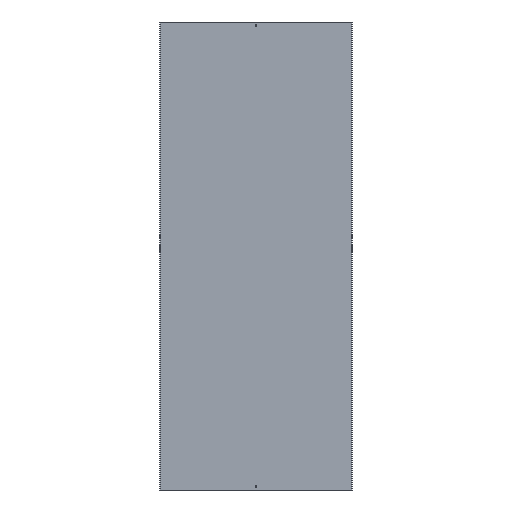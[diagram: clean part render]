
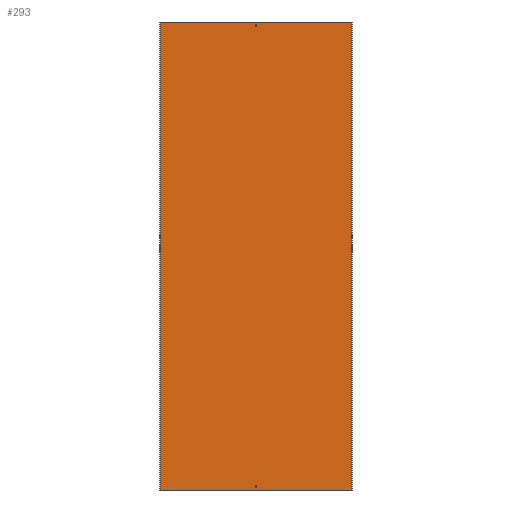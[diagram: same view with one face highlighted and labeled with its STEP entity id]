
A CAD part, front view. The second image highlights one B-rep face of the part: STEP entity #293.
In plain terms, the highlighted planar face has unit normal (0, -1, 0).
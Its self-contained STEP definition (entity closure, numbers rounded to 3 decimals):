
#7 = LINE ( 'NONE', #319, #367 ) ;
#15 = EDGE_CURVE ( 'NONE', #289, #318, #156, .T. ) ;
#17 = VERTEX_POINT ( 'NONE', #251 ) ;
#21 = FACE_BOUND ( 'NONE', #448, .T. ) ;
#23 = CARTESIAN_POINT ( 'NONE',  ( -410., -1.5, 1000. ) ) ;
#26 = DIRECTION ( 'NONE',  ( -1., 0., 0. ) ) ;
#28 = DIRECTION ( 'NONE',  ( 0., -1., 0. ) ) ;
#29 = VECTOR ( 'NONE', #455, 1000. ) ;
#31 = CARTESIAN_POINT ( 'NONE',  ( -3.25, -1.5, 1000. ) ) ;
#32 = CARTESIAN_POINT ( 'NONE',  ( -410., -1.5, -1000. ) ) ;
#46 = CARTESIAN_POINT ( 'NONE',  ( 410., -1.5, 1000. ) ) ;
#50 = CARTESIAN_POINT ( 'NONE',  ( -411.5, -1.5, 1000. ) ) ;
#56 = DIRECTION ( 'NONE',  ( 0., 0., 1. ) ) ;
#57 = EDGE_CURVE ( 'NONE', #258, #318, #167, .T. ) ;
#60 = CARTESIAN_POINT ( 'NONE',  ( -410., -1.5, 1000. ) ) ;
#64 = EDGE_CURVE ( 'NONE', #113, #261, #388, .T. ) ;
#68 = LINE ( 'NONE', #119, #211 ) ;
#69 = CARTESIAN_POINT ( 'NONE',  ( 3.25, -1.5, 979. ) ) ;
#80 = VECTOR ( 'NONE', #221, 1000. ) ;
#97 = VERTEX_POINT ( 'NONE', #527 ) ;
#101 = EDGE_CURVE ( 'NONE', #131, #441, #300, .T. ) ;
#102 = CARTESIAN_POINT ( 'NONE',  ( -411.5, -1.5, 979. ) ) ;
#105 = DIRECTION ( 'NONE',  ( -1., 0., 0. ) ) ;
#109 = VECTOR ( 'NONE', #56, 1000. ) ;
#113 = VERTEX_POINT ( 'NONE', #477 ) ;
#115 = AXIS2_PLACEMENT_3D ( 'NONE', #338, #28, #520 ) ;
#119 = CARTESIAN_POINT ( 'NONE',  ( -411.5, -1.5, -979. ) ) ;
#121 = ORIENTED_EDGE ( 'NONE', *, *, #583, .T. ) ;
#130 = DIRECTION ( 'NONE',  ( 0., 0., -1. ) ) ;
#131 = VERTEX_POINT ( 'NONE', #69 ) ;
#142 = ORIENTED_EDGE ( 'NONE', *, *, #15, .T. ) ;
#156 = LINE ( 'NONE', #60, #360 ) ;
#157 = CARTESIAN_POINT ( 'NONE',  ( -3.25, -1.5, -988. ) ) ;
#162 = CARTESIAN_POINT ( 'NONE',  ( -411.5, -1.5, -1000. ) ) ;
#167 = LINE ( 'NONE', #162, #534 ) ;
#180 = EDGE_LOOP ( 'NONE', ( #372, #522, #562, #509 ) ) ;
#191 = VECTOR ( 'NONE', #105, 1000. ) ;
#195 = LINE ( 'NONE', #50, #539 ) ;
#198 = ORIENTED_EDGE ( 'NONE', *, *, #479, .T. ) ;
#200 = CARTESIAN_POINT ( 'NONE',  ( -3.25, -1.5, 979. ) ) ;
#211 = VECTOR ( 'NONE', #504, 1000. ) ;
#221 = DIRECTION ( 'NONE',  ( 0., 0., -1. ) ) ;
#229 = LINE ( 'NONE', #46, #80 ) ;
#231 = EDGE_CURVE ( 'NONE', #97, #258, #229, .T. ) ;
#251 = CARTESIAN_POINT ( 'NONE',  ( 3.25, -1.5, -988. ) ) ;
#258 = VERTEX_POINT ( 'NONE', #429 ) ;
#261 = VERTEX_POINT ( 'NONE', #200 ) ;
#277 = CARTESIAN_POINT ( 'NONE',  ( -3.25, -1.5, 1000. ) ) ;
#287 = EDGE_CURVE ( 'NONE', #441, #113, #323, .T. ) ;
#288 = VERTEX_POINT ( 'NONE', #157 ) ;
#289 = VERTEX_POINT ( 'NONE', #23 ) ;
#293 = ADVANCED_FACE ( 'NONE', ( #468, #524, #21 ), #336, .T. ) ;
#296 = VECTOR ( 'NONE', #419, 1000. ) ;
#297 = ORIENTED_EDGE ( 'NONE', *, *, #556, .T. ) ;
#300 = LINE ( 'NONE', #337, #587 ) ;
#307 = ORIENTED_EDGE ( 'NONE', *, *, #231, .F. ) ;
#313 = EDGE_CURVE ( 'NONE', #566, #590, #68, .T. ) ;
#318 = VERTEX_POINT ( 'NONE', #32 ) ;
#319 = CARTESIAN_POINT ( 'NONE',  ( 3.25, -1.5, 1000. ) ) ;
#322 = CARTESIAN_POINT ( 'NONE',  ( -3.25, -1.5, -979. ) ) ;
#323 = LINE ( 'NONE', #376, #296 ) ;
#325 = LINE ( 'NONE', #507, #191 ) ;
#336 = PLANE ( 'NONE',  #115 ) ;
#337 = CARTESIAN_POINT ( 'NONE',  ( 3.25, -1.5, 1000. ) ) ;
#338 = CARTESIAN_POINT ( 'NONE',  ( -411.5, -1.5, 1000. ) ) ;
#346 = ORIENTED_EDGE ( 'NONE', *, *, #57, .F. ) ;
#355 = ORIENTED_EDGE ( 'NONE', *, *, #569, .T. ) ;
#360 = VECTOR ( 'NONE', #519, 1000. ) ;
#367 = VECTOR ( 'NONE', #501, 1000. ) ;
#372 = ORIENTED_EDGE ( 'NONE', *, *, #64, .F. ) ;
#374 = CARTESIAN_POINT ( 'NONE',  ( 3.25, -1.5, -979. ) ) ;
#376 = CARTESIAN_POINT ( 'NONE',  ( -411.5, -1.5, 988. ) ) ;
#381 = DIRECTION ( 'NONE',  ( 0., 0., 1. ) ) ;
#388 = LINE ( 'NONE', #31, #462 ) ;
#419 = DIRECTION ( 'NONE',  ( -1., 0., 0. ) ) ;
#429 = CARTESIAN_POINT ( 'NONE',  ( 410., -1.5, -1000. ) ) ;
#441 = VERTEX_POINT ( 'NONE', #457 ) ;
#448 = EDGE_LOOP ( 'NONE', ( #121, #355, #517, #297 ) ) ;
#449 = LINE ( 'NONE', #102, #29 ) ;
#455 = DIRECTION ( 'NONE',  ( 1., 0., 0. ) ) ;
#457 = CARTESIAN_POINT ( 'NONE',  ( 3.25, -1.5, 988. ) ) ;
#462 = VECTOR ( 'NONE', #130, 1000. ) ;
#468 = FACE_BOUND ( 'NONE', #180, .T. ) ;
#476 = EDGE_CURVE ( 'NONE', #261, #131, #449, .T. ) ;
#477 = CARTESIAN_POINT ( 'NONE',  ( -3.25, -1.5, 988. ) ) ;
#479 = EDGE_CURVE ( 'NONE', #97, #289, #195, .T. ) ;
#501 = DIRECTION ( 'NONE',  ( 0., 0., -1. ) ) ;
#503 = LINE ( 'NONE', #277, #109 ) ;
#504 = DIRECTION ( 'NONE',  ( 1., 0., 0. ) ) ;
#507 = CARTESIAN_POINT ( 'NONE',  ( -411.5, -1.5, -988. ) ) ;
#509 = ORIENTED_EDGE ( 'NONE', *, *, #476, .F. ) ;
#517 = ORIENTED_EDGE ( 'NONE', *, *, #313, .T. ) ;
#519 = DIRECTION ( 'NONE',  ( 0., 0., -1. ) ) ;
#520 = DIRECTION ( 'NONE',  ( 0., 0., -1. ) ) ;
#522 = ORIENTED_EDGE ( 'NONE', *, *, #287, .F. ) ;
#524 = FACE_OUTER_BOUND ( 'NONE', #570, .T. ) ;
#527 = CARTESIAN_POINT ( 'NONE',  ( 410., -1.5, 1000. ) ) ;
#534 = VECTOR ( 'NONE', #26, 1000. ) ;
#539 = VECTOR ( 'NONE', #558, 1000. ) ;
#556 = EDGE_CURVE ( 'NONE', #590, #17, #7, .T. ) ;
#558 = DIRECTION ( 'NONE',  ( -1., 0., 0. ) ) ;
#562 = ORIENTED_EDGE ( 'NONE', *, *, #101, .F. ) ;
#566 = VERTEX_POINT ( 'NONE', #322 ) ;
#569 = EDGE_CURVE ( 'NONE', #288, #566, #503, .T. ) ;
#570 = EDGE_LOOP ( 'NONE', ( #346, #307, #198, #142 ) ) ;
#583 = EDGE_CURVE ( 'NONE', #17, #288, #325, .T. ) ;
#587 = VECTOR ( 'NONE', #381, 1000. ) ;
#590 = VERTEX_POINT ( 'NONE', #374 ) ;
